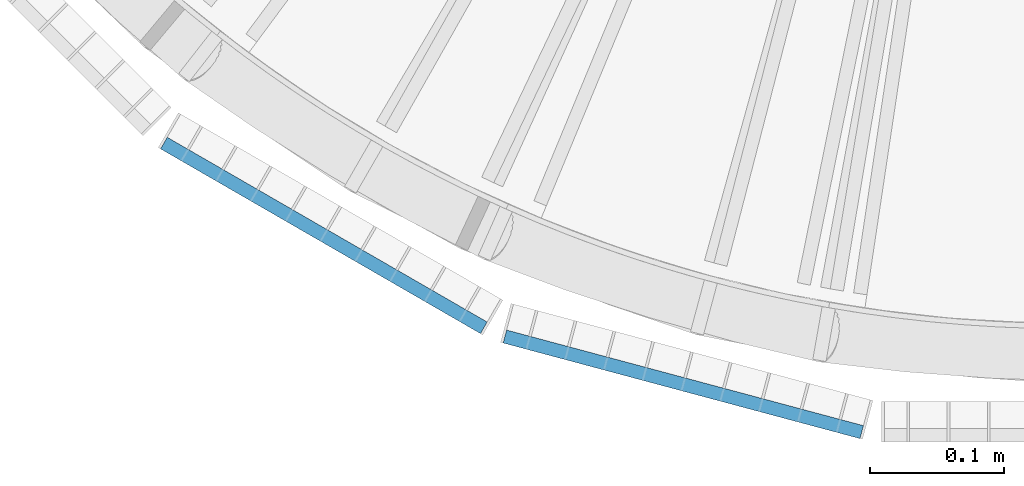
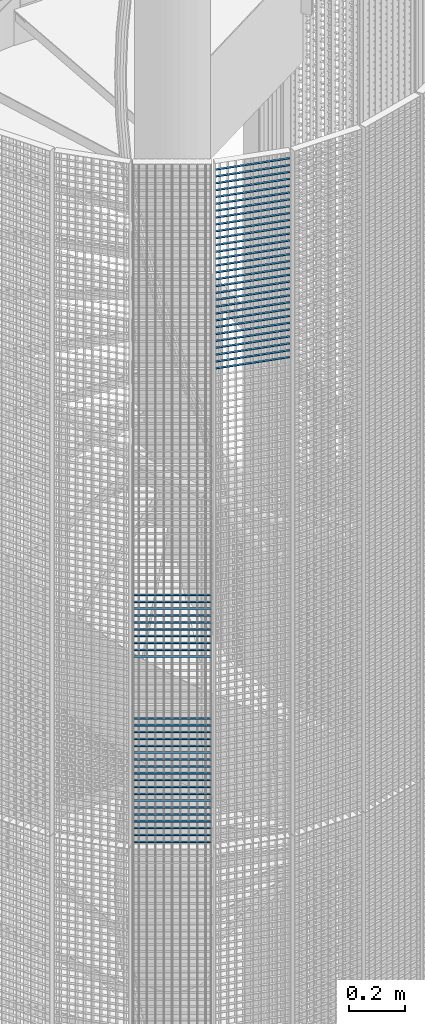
# One storey, part 343 of 1183: 59 beams, 2 elements without a shape of their own.
"""IFC2X3 building model written with IfcOpenShell, lengths in millimetres."""

from ifc_helpers import new_model, si_unit, frame, origin_with_axes, origin_2d_with_axis, place, context, subcontext, project, spatial, rectangle, extrude, material, type_object, element, aggregate, save


model = new_model("IFC2X3")

# Units and contexts
model_context = context("Model", 3, precision=1e-05, world=origin_with_axes())
body_context = subcontext(model_context, "Body", "Model", "MODEL_VIEW")
ifc_project = project(units=[si_unit("LENGTHUNIT", "METRE", prefix="MILLI"), si_unit("AREAUNIT", "SQUARE_METRE"), si_unit("VOLUMEUNIT", "CUBIC_METRE"), si_unit("MASSUNIT", "GRAM", prefix="KILO"), si_unit("TIMEUNIT", "SECOND"), si_unit("PLANEANGLEUNIT", "RADIAN"), si_unit("SOLIDANGLEUNIT", "STERADIAN"), si_unit("THERMODYNAMICTEMPERATUREUNIT", "DEGREE_CELSIUS"), si_unit("LUMINOUSINTENSITYUNIT", "LUMEN")], contexts=[model_context])

# Site, building, storey
site_placement = place(None, origin_with_axes())
site = spatial("IfcSite", under=ifc_project, at=site_placement, Name="Undefined", CompositionType="ELEMENT")
building_placement = place(site_placement, origin_with_axes())
building = spatial("IfcBuilding", under=site, at=building_placement, Name="Undefined", CompositionType="ELEMENT")
storey_placement = place(building_placement, origin_with_axes())
storey = spatial("IfcBuildingStorey", under=building, at=storey_placement, Name="Undefined", CompositionType="ELEMENT", Elevation=0.0)

# Assembly, beams
assembly_1_placement = place(storey_placement, origin_with_axes())
assembly_1 = element("IfcElementAssembly", 1, at=assembly_1_placement, inside=storey, Name="BORDURE", AssemblyPlace="NOTDEFINED", PredefinedType="NOTDEFINED")
ifc_material = material(Name="STEEL/S235JR")
beam_type = type_object("IfcBeamType", Name="PL2*10", PredefinedType="NOTDEFINED")
beam_1_placement = place(assembly_1_placement, frame((21162.7680445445, -1033.29996828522, 15570.0), z_axis=(-0.49999999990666, -0.866025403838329, 0.0), x_axis=(-0.866025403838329, 0.499999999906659, 0.0)))
beam_1 = element("IfcBeam", 2, at=beam_1_placement, type_object=beam_type, material=ifc_material, Name="ENTRETOISE", context=body_context, shape_type="SweptSolid", body=[
    extrude(rectangle(XDim=2.0, YDim=10.0, at=origin_2d_with_axis()), frame((275.999999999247, 9.09494701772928e-13, 1.53210777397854e-14), z_axis=(-1.0, 0.0, 0.0), x_axis=(0.0, -1.0, 0.0)), (0.0, 0.0, 1.0), 276.0),
])
beam_2_placement = place(assembly_1_placement, frame((21162.7680445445, -1033.29996828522, 15540.0), z_axis=(-0.49999999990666, -0.866025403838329, 0.0), x_axis=(-0.866025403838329, 0.499999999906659, 0.0)))
beam_2 = element("IfcBeam", 3, at=beam_2_placement, type_object=beam_type, material=ifc_material, Name="ENTRETOISE", context=body_context, shape_type="SweptSolid", body=[
    extrude(rectangle(XDim=2.0, YDim=10.0, at=origin_2d_with_axis()), frame((275.999999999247, 9.09494701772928e-13, 1.53210777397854e-14), z_axis=(-1.0, 0.0, 0.0), x_axis=(0.0, -1.0, 0.0)), (0.0, 0.0, 1.0), 276.0),
])
beam_3_placement = place(assembly_1_placement, frame((21162.7680445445, -1033.29996828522, 15840.0), z_axis=(-0.49999999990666, -0.866025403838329, 0.0), x_axis=(-0.866025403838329, 0.499999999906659, 0.0)))
beam_3 = element("IfcBeam", 4, at=beam_3_placement, type_object=beam_type, material=ifc_material, Name="ENTRETOISE", context=body_context, shape_type="SweptSolid", body=[
    extrude(rectangle(XDim=2.0, YDim=10.0, at=origin_2d_with_axis()), frame((275.999999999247, 9.09494701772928e-13, 1.53210777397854e-14), z_axis=(-1.0, 0.0, 0.0), x_axis=(0.0, -1.0, 0.0)), (0.0, 0.0, 1.0), 276.0),
])
beam_4_placement = place(assembly_1_placement, frame((21162.7680445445, -1033.29996828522, 15510.0), z_axis=(-0.49999999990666, -0.866025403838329, 0.0), x_axis=(-0.866025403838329, 0.499999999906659, 0.0)))
beam_4 = element("IfcBeam", 5, at=beam_4_placement, type_object=beam_type, material=ifc_material, Name="ENTRETOISE", context=body_context, shape_type="SweptSolid", body=[
    extrude(rectangle(XDim=2.0, YDim=10.0, at=origin_2d_with_axis()), frame((275.999999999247, 9.09494701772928e-13, 1.53210777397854e-14), z_axis=(-1.0, 0.0, 0.0), x_axis=(0.0, -1.0, 0.0)), (0.0, 0.0, 1.0), 276.0),
])
beam_5_placement = place(assembly_1_placement, frame((21162.7680445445, -1033.29996828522, 15480.0), z_axis=(-0.49999999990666, -0.866025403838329, 0.0), x_axis=(-0.866025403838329, 0.499999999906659, 0.0)))
beam_5 = element("IfcBeam", 6, at=beam_5_placement, type_object=beam_type, material=ifc_material, Name="ENTRETOISE", context=body_context, shape_type="SweptSolid", body=[
    extrude(rectangle(XDim=2.0, YDim=10.0, at=origin_2d_with_axis()), frame((275.999999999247, 9.09494701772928e-13, 1.53210777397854e-14), z_axis=(-1.0, 0.0, 0.0), x_axis=(0.0, -1.0, 0.0)), (0.0, 0.0, 1.0), 276.0),
])
beam_6_placement = place(assembly_1_placement, frame((21162.7680445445, -1033.29996828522, 15870.0), z_axis=(-0.49999999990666, -0.866025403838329, 0.0), x_axis=(-0.866025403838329, 0.499999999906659, 0.0)))
beam_6 = element("IfcBeam", 7, at=beam_6_placement, type_object=beam_type, material=ifc_material, Name="ENTRETOISE", context=body_context, shape_type="SweptSolid", body=[
    extrude(rectangle(XDim=2.0, YDim=10.0, at=origin_2d_with_axis()), frame((275.999999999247, 9.09494701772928e-13, 1.53210777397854e-14), z_axis=(-1.0, 0.0, 0.0), x_axis=(0.0, -1.0, 0.0)), (0.0, 0.0, 1.0), 276.0),
])
beam_7_placement = place(assembly_1_placement, frame((21162.7680445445, -1033.29996828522, 15450.0), z_axis=(-0.49999999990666, -0.866025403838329, 0.0), x_axis=(-0.866025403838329, 0.499999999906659, 0.0)))
beam_7 = element("IfcBeam", 8, at=beam_7_placement, type_object=beam_type, material=ifc_material, Name="ENTRETOISE", context=body_context, shape_type="SweptSolid", body=[
    extrude(rectangle(XDim=2.0, YDim=10.0, at=origin_2d_with_axis()), frame((275.999999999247, 9.09494701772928e-13, 1.53210777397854e-14), z_axis=(-1.0, 0.0, 0.0), x_axis=(0.0, -1.0, 0.0)), (0.0, 0.0, 1.0), 276.0),
])
beam_8_placement = place(assembly_1_placement, frame((21162.7680445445, -1033.29996828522, 15420.0), z_axis=(-0.49999999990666, -0.866025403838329, 0.0), x_axis=(-0.866025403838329, 0.499999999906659, 0.0)))
beam_8 = element("IfcBeam", 9, at=beam_8_placement, type_object=beam_type, material=ifc_material, Name="ENTRETOISE", context=body_context, shape_type="SweptSolid", body=[
    extrude(rectangle(XDim=2.0, YDim=10.0, at=origin_2d_with_axis()), frame((275.999999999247, 9.09494701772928e-13, 1.53210777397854e-14), z_axis=(-1.0, 0.0, 0.0), x_axis=(0.0, -1.0, 0.0)), (0.0, 0.0, 1.0), 276.0),
])
beam_9_placement = place(assembly_1_placement, frame((21162.7680445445, -1033.29996828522, 15900.0), z_axis=(-0.49999999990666, -0.866025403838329, 0.0), x_axis=(-0.866025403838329, 0.499999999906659, 0.0)))
beam_9 = element("IfcBeam", 10, at=beam_9_placement, type_object=beam_type, material=ifc_material, Name="ENTRETOISE", context=body_context, shape_type="SweptSolid", body=[
    extrude(rectangle(XDim=2.0, YDim=10.0, at=origin_2d_with_axis()), frame((275.999999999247, 9.09494701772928e-13, 1.53210777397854e-14), z_axis=(-1.0, 0.0, 0.0), x_axis=(0.0, -1.0, 0.0)), (0.0, 0.0, 1.0), 276.0),
])
beam_10_placement = place(assembly_1_placement, frame((21162.7680445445, -1033.29996828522, 15390.0), z_axis=(-0.49999999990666, -0.866025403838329, 0.0), x_axis=(-0.866025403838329, 0.499999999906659, 0.0)))
beam_10 = element("IfcBeam", 11, at=beam_10_placement, type_object=beam_type, material=ifc_material, Name="ENTRETOISE", context=body_context, shape_type="SweptSolid", body=[
    extrude(rectangle(XDim=2.0, YDim=10.0, at=origin_2d_with_axis()), frame((275.999999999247, 9.09494701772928e-13, 1.53210777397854e-14), z_axis=(-1.0, 0.0, 0.0), x_axis=(0.0, -1.0, 0.0)), (0.0, 0.0, 1.0), 276.0),
])
beam_11_placement = place(assembly_1_placement, frame((21162.7680445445, -1033.29996828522, 15930.0), z_axis=(-0.49999999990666, -0.866025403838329, 0.0), x_axis=(-0.866025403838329, 0.499999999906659, 0.0)))
beam_11 = element("IfcBeam", 12, at=beam_11_placement, type_object=beam_type, material=ifc_material, Name="ENTRETOISE", context=body_context, shape_type="SweptSolid", body=[
    extrude(rectangle(XDim=2.0, YDim=10.0, at=origin_2d_with_axis()), frame((275.999999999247, 9.09494701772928e-13, 1.53210777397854e-14), z_axis=(-1.0, 0.0, 0.0), x_axis=(0.0, -1.0, 0.0)), (0.0, 0.0, 1.0), 276.0),
])
beam_12_placement = place(assembly_1_placement, frame((21162.7680445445, -1033.29996828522, 15360.0), z_axis=(-0.49999999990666, -0.866025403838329, 0.0), x_axis=(-0.866025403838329, 0.499999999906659, 0.0)))
beam_12 = element("IfcBeam", 13, at=beam_12_placement, type_object=beam_type, material=ifc_material, Name="ENTRETOISE", context=body_context, shape_type="SweptSolid", body=[
    extrude(rectangle(XDim=2.0, YDim=10.0, at=origin_2d_with_axis()), frame((275.999999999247, 9.09494701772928e-13, 1.53210777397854e-14), z_axis=(-1.0, 0.0, 0.0), x_axis=(0.0, -1.0, 0.0)), (0.0, 0.0, 1.0), 276.0),
])
beam_13_placement = place(assembly_1_placement, frame((21162.7680445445, -1033.29996828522, 15330.0), z_axis=(-0.49999999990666, -0.866025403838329, 0.0), x_axis=(-0.866025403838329, 0.499999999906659, 0.0)))
beam_13 = element("IfcBeam", 14, at=beam_13_placement, type_object=beam_type, material=ifc_material, Name="ENTRETOISE", context=body_context, shape_type="SweptSolid", body=[
    extrude(rectangle(XDim=2.0, YDim=10.0, at=origin_2d_with_axis()), frame((275.999999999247, 9.09494701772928e-13, 1.53210777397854e-14), z_axis=(-1.0, 0.0, 0.0), x_axis=(0.0, -1.0, 0.0)), (0.0, 0.0, 1.0), 276.0),
])
beam_14_placement = place(assembly_1_placement, frame((21162.7680445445, -1033.29996828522, 15960.0), z_axis=(-0.49999999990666, -0.866025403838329, 0.0), x_axis=(-0.866025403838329, 0.499999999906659, 0.0)))
beam_14 = element("IfcBeam", 15, at=beam_14_placement, type_object=beam_type, material=ifc_material, Name="ENTRETOISE", context=body_context, shape_type="SweptSolid", body=[
    extrude(rectangle(XDim=2.0, YDim=10.0, at=origin_2d_with_axis()), frame((275.999999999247, 9.09494701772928e-13, 1.53210777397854e-14), z_axis=(-1.0, 0.0, 0.0), x_axis=(0.0, -1.0, 0.0)), (0.0, 0.0, 1.0), 276.0),
])
beam_15_placement = place(assembly_1_placement, frame((21162.7680445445, -1033.29996828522, 15300.0), z_axis=(-0.49999999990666, -0.866025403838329, 0.0), x_axis=(-0.866025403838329, 0.499999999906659, 0.0)))
beam_15 = element("IfcBeam", 16, at=beam_15_placement, type_object=beam_type, material=ifc_material, Name="ENTRETOISE", context=body_context, shape_type="SweptSolid", body=[
    extrude(rectangle(XDim=2.0, YDim=10.0, at=origin_2d_with_axis()), frame((275.999999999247, 9.09494701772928e-13, 1.53210777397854e-14), z_axis=(-1.0, 0.0, 0.0), x_axis=(0.0, -1.0, 0.0)), (0.0, 0.0, 1.0), 276.0),
])
beam_16_placement = place(assembly_1_placement, frame((21162.7680445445, -1033.29996828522, 15270.0), z_axis=(-0.49999999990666, -0.866025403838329, 0.0), x_axis=(-0.866025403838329, 0.499999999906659, 0.0)))
beam_16 = element("IfcBeam", 17, at=beam_16_placement, type_object=beam_type, material=ifc_material, Name="ENTRETOISE", context=body_context, shape_type="SweptSolid", body=[
    extrude(rectangle(XDim=2.0, YDim=10.0, at=origin_2d_with_axis()), frame((275.999999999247, 9.09494701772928e-13, 1.53210777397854e-14), z_axis=(-1.0, 0.0, 0.0), x_axis=(0.0, -1.0, 0.0)), (0.0, 0.0, 1.0), 276.0),
])
beam_17_placement = place(assembly_1_placement, frame((21162.7680445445, -1033.29996828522, 15990.0), z_axis=(-0.49999999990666, -0.866025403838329, 0.0), x_axis=(-0.866025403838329, 0.499999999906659, 0.0)))
beam_17 = element("IfcBeam", 18, at=beam_17_placement, type_object=beam_type, material=ifc_material, Name="ENTRETOISE", context=body_context, shape_type="SweptSolid", body=[
    extrude(rectangle(XDim=2.0, YDim=10.0, at=origin_2d_with_axis()), frame((275.999999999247, 9.09494701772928e-13, 1.53210777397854e-14), z_axis=(-1.0, 0.0, 0.0), x_axis=(0.0, -1.0, 0.0)), (0.0, 0.0, 1.0), 276.0),
])
beam_18_placement = place(assembly_1_placement, frame((21162.7680445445, -1033.29996828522, 15240.0), z_axis=(-0.49999999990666, -0.866025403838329, 0.0), x_axis=(-0.866025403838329, 0.499999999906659, 0.0)))
beam_18 = element("IfcBeam", 19, at=beam_18_placement, type_object=beam_type, material=ifc_material, Name="ENTRETOISE", context=body_context, shape_type="SweptSolid", body=[
    extrude(rectangle(XDim=2.0, YDim=10.0, at=origin_2d_with_axis()), frame((275.999999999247, 9.09494701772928e-13, 1.53210777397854e-14), z_axis=(-1.0, 0.0, 0.0), x_axis=(0.0, -1.0, 0.0)), (0.0, 0.0, 1.0), 276.0),
])
beam_19_placement = place(assembly_1_placement, frame((21162.7680445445, -1033.29996828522, 16020.0), z_axis=(-0.49999999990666, -0.866025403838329, 0.0), x_axis=(-0.866025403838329, 0.499999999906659, 0.0)))
beam_19 = element("IfcBeam", 20, at=beam_19_placement, type_object=beam_type, material=ifc_material, Name="ENTRETOISE", context=body_context, shape_type="SweptSolid", body=[
    extrude(rectangle(XDim=2.0, YDim=10.0, at=origin_2d_with_axis()), frame((275.999999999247, 9.09494701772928e-13, 1.53210777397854e-14), z_axis=(-1.0, 0.0, 0.0), x_axis=(0.0, -1.0, 0.0)), (0.0, 0.0, 1.0), 276.0),
])
beam_20_placement = place(assembly_1_placement, frame((21162.7680445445, -1033.29996828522, 15210.0), z_axis=(-0.49999999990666, -0.866025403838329, 0.0), x_axis=(-0.866025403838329, 0.499999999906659, 0.0)))
beam_20 = element("IfcBeam", 21, at=beam_20_placement, type_object=beam_type, material=ifc_material, Name="ENTRETOISE", context=body_context, shape_type="SweptSolid", body=[
    extrude(rectangle(XDim=2.0, YDim=10.0, at=origin_2d_with_axis()), frame((275.999999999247, 9.09494701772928e-13, 1.53210777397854e-14), z_axis=(-1.0, 0.0, 0.0), x_axis=(0.0, -1.0, 0.0)), (0.0, 0.0, 1.0), 276.0),
])
beam_21_placement = place(assembly_1_placement, frame((21162.7680445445, -1033.29996828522, 15180.0), z_axis=(-0.49999999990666, -0.866025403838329, 0.0), x_axis=(-0.866025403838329, 0.499999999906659, 0.0)))
beam_21 = element("IfcBeam", 22, at=beam_21_placement, type_object=beam_type, material=ifc_material, Name="ENTRETOISE", context=body_context, shape_type="SweptSolid", body=[
    extrude(rectangle(XDim=2.0, YDim=10.0, at=origin_2d_with_axis()), frame((275.999999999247, 9.09494701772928e-13, 1.53210777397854e-14), z_axis=(-1.0, 0.0, 0.0), x_axis=(0.0, -1.0, 0.0)), (0.0, 0.0, 1.0), 276.0),
])
beam_22_placement = place(assembly_1_placement, frame((21162.7680445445, -1033.29996828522, 16050.0), z_axis=(-0.49999999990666, -0.866025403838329, 0.0), x_axis=(-0.866025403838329, 0.499999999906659, 0.0)))
beam_22 = element("IfcBeam", 23, at=beam_22_placement, type_object=beam_type, material=ifc_material, Name="ENTRETOISE", context=body_context, shape_type="SweptSolid", body=[
    extrude(rectangle(XDim=2.0, YDim=10.0, at=origin_2d_with_axis()), frame((275.999999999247, 9.09494701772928e-13, 1.53210777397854e-14), z_axis=(-1.0, 0.0, 0.0), x_axis=(0.0, -1.0, 0.0)), (0.0, 0.0, 1.0), 276.0),
])
beam_23_placement = place(assembly_1_placement, frame((21162.7680445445, -1033.29996828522, 15150.0), z_axis=(-0.49999999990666, -0.866025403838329, 0.0), x_axis=(-0.866025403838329, 0.499999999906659, 0.0)))
beam_23 = element("IfcBeam", 24, at=beam_23_placement, type_object=beam_type, material=ifc_material, Name="ENTRETOISE", context=body_context, shape_type="SweptSolid", body=[
    extrude(rectangle(XDim=2.0, YDim=10.0, at=origin_2d_with_axis()), frame((275.999999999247, 9.09494701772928e-13, 1.53210777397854e-14), z_axis=(-1.0, 0.0, 0.0), x_axis=(0.0, -1.0, 0.0)), (0.0, 0.0, 1.0), 276.0),
])
beam_24_placement = place(assembly_1_placement, frame((21162.7680445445, -1033.29996828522, 15120.0), z_axis=(-0.49999999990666, -0.866025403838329, 0.0), x_axis=(-0.866025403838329, 0.499999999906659, 0.0)))
beam_24 = element("IfcBeam", 25, at=beam_24_placement, type_object=beam_type, material=ifc_material, Name="ENTRETOISE", context=body_context, shape_type="SweptSolid", body=[
    extrude(rectangle(XDim=2.0, YDim=10.0, at=origin_2d_with_axis()), frame((275.999999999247, 9.09494701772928e-13, 1.53210777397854e-14), z_axis=(-1.0, 0.0, 0.0), x_axis=(0.0, -1.0, 0.0)), (0.0, 0.0, 1.0), 276.0),
])
beam_25_placement = place(assembly_1_placement, frame((21162.7680445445, -1033.29996828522, 16080.0), z_axis=(-0.49999999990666, -0.866025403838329, 0.0), x_axis=(-0.866025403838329, 0.499999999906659, 0.0)))
beam_25 = element("IfcBeam", 26, at=beam_25_placement, type_object=beam_type, material=ifc_material, Name="ENTRETOISE", context=body_context, shape_type="SweptSolid", body=[
    extrude(rectangle(XDim=2.0, YDim=10.0, at=origin_2d_with_axis()), frame((275.999999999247, 9.09494701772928e-13, 1.53210777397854e-14), z_axis=(-1.0, 0.0, 0.0), x_axis=(0.0, -1.0, 0.0)), (0.0, 0.0, 1.0), 276.0),
])
beam_26_placement = place(assembly_1_placement, frame((21162.7680445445, -1033.29996828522, 15090.0), z_axis=(-0.49999999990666, -0.866025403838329, 0.0), x_axis=(-0.866025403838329, 0.499999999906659, 0.0)))
beam_26 = element("IfcBeam", 27, at=beam_26_placement, type_object=beam_type, material=ifc_material, Name="ENTRETOISE", context=body_context, shape_type="SweptSolid", body=[
    extrude(rectangle(XDim=2.0, YDim=10.0, at=origin_2d_with_axis()), frame((275.999999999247, 9.09494701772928e-13, 1.53210777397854e-14), z_axis=(-1.0, 0.0, 0.0), x_axis=(0.0, -1.0, 0.0)), (0.0, 0.0, 1.0), 276.0),
])
beam_27_placement = place(assembly_1_placement, frame((21162.7680445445, -1033.29996828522, 15060.0), z_axis=(-0.49999999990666, -0.866025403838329, 0.0), x_axis=(-0.866025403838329, 0.499999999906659, 0.0)))
beam_27 = element("IfcBeam", 28, at=beam_27_placement, type_object=beam_type, material=ifc_material, Name="ENTRETOISE", context=body_context, shape_type="SweptSolid", body=[
    extrude(rectangle(XDim=2.0, YDim=10.0, at=origin_2d_with_axis()), frame((275.999999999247, 9.09494701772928e-13, 1.53210777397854e-14), z_axis=(-1.0, 0.0, 0.0), x_axis=(0.0, -1.0, 0.0)), (0.0, 0.0, 1.0), 276.0),
])
beam_28_placement = place(assembly_1_placement, frame((21162.7680445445, -1033.29996828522, 16110.0), z_axis=(-0.49999999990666, -0.866025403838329, 0.0), x_axis=(-0.866025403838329, 0.499999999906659, 0.0)))
beam_28 = element("IfcBeam", 29, at=beam_28_placement, type_object=beam_type, material=ifc_material, Name="ENTRETOISE", context=body_context, shape_type="SweptSolid", body=[
    extrude(rectangle(XDim=2.0, YDim=10.0, at=origin_2d_with_axis()), frame((275.999999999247, 9.09494701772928e-13, 1.53210777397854e-14), z_axis=(-1.0, 0.0, 0.0), x_axis=(0.0, -1.0, 0.0)), (0.0, 0.0, 1.0), 276.0),
])
beam_29_placement = place(assembly_1_placement, frame((21162.7680445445, -1033.29996828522, 15030.0), z_axis=(-0.49999999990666, -0.866025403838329, 0.0), x_axis=(-0.866025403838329, 0.499999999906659, 0.0)))
beam_29 = element("IfcBeam", 30, at=beam_29_placement, type_object=beam_type, material=ifc_material, Name="ENTRETOISE", context=body_context, shape_type="SweptSolid", body=[
    extrude(rectangle(XDim=2.0, YDim=10.0, at=origin_2d_with_axis()), frame((275.999999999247, 9.09494701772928e-13, 1.53210777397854e-14), z_axis=(-1.0, 0.0, 0.0), x_axis=(0.0, -1.0, 0.0)), (0.0, 0.0, 1.0), 276.0),
])
aggregate(assembly_1, [beam_1, beam_2, beam_3, beam_4, beam_5, beam_6, beam_7, beam_8, beam_9, beam_10, beam_11, beam_12, beam_13, beam_14, beam_15, beam_16, beam_17, beam_18, beam_19, beam_20, beam_21, beam_22, beam_23, beam_24, beam_25, beam_26, beam_27, beam_28, beam_29])

assembly_2_placement = place(storey_placement, origin_with_axes())
assembly_2 = element("IfcElementAssembly", 31, at=assembly_2_placement, inside=storey, Name="BORDURE", AssemblyPlace="NOTDEFINED", PredefinedType="NOTDEFINED")
beam_30_placement = place(assembly_2_placement, frame((21445.1040732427, -1111.25508286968, 17970.0), z_axis=(-0.258819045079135, -0.965925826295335, 0.0), x_axis=(-0.965925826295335, 0.258819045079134, 0.0)))
beam_30 = element("IfcBeam", 32, at=beam_30_placement, type_object=beam_type, material=ifc_material, Name="ENTRETOISE", context=body_context, shape_type="SweptSolid", body=[
    extrude(rectangle(XDim=2.0, YDim=10.0, at=origin_2d_with_axis()), frame((275.999999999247, 9.09494701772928e-13, 1.53210777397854e-14), z_axis=(-1.0, 0.0, 0.0), x_axis=(0.0, -1.0, 0.0)), (0.0, 0.0, 1.0), 276.0),
])
beam_31_placement = place(assembly_2_placement, frame((21445.1040732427, -1111.25508286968, 17940.0), z_axis=(-0.258819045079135, -0.965925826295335, 0.0), x_axis=(-0.965925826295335, 0.258819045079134, 0.0)))
beam_31 = element("IfcBeam", 33, at=beam_31_placement, type_object=beam_type, material=ifc_material, Name="ENTRETOISE", context=body_context, shape_type="SweptSolid", body=[
    extrude(rectangle(XDim=2.0, YDim=10.0, at=origin_2d_with_axis()), frame((275.999999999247, 9.09494701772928e-13, 1.53210777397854e-14), z_axis=(-1.0, 0.0, 0.0), x_axis=(0.0, -1.0, 0.0)), (0.0, 0.0, 1.0), 276.0),
])
beam_32_placement = place(assembly_2_placement, frame((21445.1040732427, -1111.25508286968, 17910.0), z_axis=(-0.258819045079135, -0.965925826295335, 0.0), x_axis=(-0.965925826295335, 0.258819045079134, 0.0)))
beam_32 = element("IfcBeam", 34, at=beam_32_placement, type_object=beam_type, material=ifc_material, Name="ENTRETOISE", context=body_context, shape_type="SweptSolid", body=[
    extrude(rectangle(XDim=2.0, YDim=10.0, at=origin_2d_with_axis()), frame((275.999999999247, 9.09494701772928e-13, 1.53210777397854e-14), z_axis=(-1.0, 0.0, 0.0), x_axis=(0.0, -1.0, 0.0)), (0.0, 0.0, 1.0), 276.0),
])
beam_33_placement = place(assembly_2_placement, frame((21445.1040732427, -1111.25508286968, 17880.0), z_axis=(-0.258819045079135, -0.965925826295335, 0.0), x_axis=(-0.965925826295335, 0.258819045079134, 0.0)))
beam_33 = element("IfcBeam", 35, at=beam_33_placement, type_object=beam_type, material=ifc_material, Name="ENTRETOISE", context=body_context, shape_type="SweptSolid", body=[
    extrude(rectangle(XDim=2.0, YDim=10.0, at=origin_2d_with_axis()), frame((275.999999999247, 9.09494701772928e-13, 1.53210777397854e-14), z_axis=(-1.0, 0.0, 0.0), x_axis=(0.0, -1.0, 0.0)), (0.0, 0.0, 1.0), 276.0),
])
beam_34_placement = place(assembly_2_placement, frame((21445.1040732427, -1111.25508286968, 17850.0), z_axis=(-0.258819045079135, -0.965925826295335, 0.0), x_axis=(-0.965925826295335, 0.258819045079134, 0.0)))
beam_34 = element("IfcBeam", 36, at=beam_34_placement, type_object=beam_type, material=ifc_material, Name="ENTRETOISE", context=body_context, shape_type="SweptSolid", body=[
    extrude(rectangle(XDim=2.0, YDim=10.0, at=origin_2d_with_axis()), frame((275.999999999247, 9.09494701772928e-13, 1.53210777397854e-14), z_axis=(-1.0, 0.0, 0.0), x_axis=(0.0, -1.0, 0.0)), (0.0, 0.0, 1.0), 276.0),
])
beam_35_placement = place(assembly_2_placement, frame((21445.1040732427, -1111.25508286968, 17820.0), z_axis=(-0.258819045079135, -0.965925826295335, 0.0), x_axis=(-0.965925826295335, 0.258819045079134, 0.0)))
beam_35 = element("IfcBeam", 37, at=beam_35_placement, type_object=beam_type, material=ifc_material, Name="ENTRETOISE", context=body_context, shape_type="SweptSolid", body=[
    extrude(rectangle(XDim=2.0, YDim=10.0, at=origin_2d_with_axis()), frame((275.999999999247, 9.09494701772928e-13, 1.53210777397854e-14), z_axis=(-1.0, 0.0, 0.0), x_axis=(0.0, -1.0, 0.0)), (0.0, 0.0, 1.0), 276.0),
])
beam_36_placement = place(assembly_2_placement, frame((21445.1040732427, -1111.25508286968, 17790.0), z_axis=(-0.258819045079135, -0.965925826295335, 0.0), x_axis=(-0.965925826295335, 0.258819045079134, 0.0)))
beam_36 = element("IfcBeam", 38, at=beam_36_placement, type_object=beam_type, material=ifc_material, Name="ENTRETOISE", context=body_context, shape_type="SweptSolid", body=[
    extrude(rectangle(XDim=2.0, YDim=10.0, at=origin_2d_with_axis()), frame((275.999999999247, 9.09494701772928e-13, 1.53210777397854e-14), z_axis=(-1.0, 0.0, 0.0), x_axis=(0.0, -1.0, 0.0)), (0.0, 0.0, 1.0), 276.0),
])
beam_37_placement = place(assembly_2_placement, frame((21445.1040732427, -1111.25508286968, 17760.0), z_axis=(-0.258819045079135, -0.965925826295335, 0.0), x_axis=(-0.965925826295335, 0.258819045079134, 0.0)))
beam_37 = element("IfcBeam", 39, at=beam_37_placement, type_object=beam_type, material=ifc_material, Name="ENTRETOISE", context=body_context, shape_type="SweptSolid", body=[
    extrude(rectangle(XDim=2.0, YDim=10.0, at=origin_2d_with_axis()), frame((275.999999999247, 9.09494701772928e-13, 1.53210777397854e-14), z_axis=(-1.0, 0.0, 0.0), x_axis=(0.0, -1.0, 0.0)), (0.0, 0.0, 1.0), 276.0),
])
beam_38_placement = place(assembly_2_placement, frame((21445.1040732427, -1111.25508286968, 17730.0), z_axis=(-0.258819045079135, -0.965925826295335, 0.0), x_axis=(-0.965925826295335, 0.258819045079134, 0.0)))
beam_38 = element("IfcBeam", 40, at=beam_38_placement, type_object=beam_type, material=ifc_material, Name="ENTRETOISE", context=body_context, shape_type="SweptSolid", body=[
    extrude(rectangle(XDim=2.0, YDim=10.0, at=origin_2d_with_axis()), frame((275.999999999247, 9.09494701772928e-13, 1.53210777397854e-14), z_axis=(-1.0, 0.0, 0.0), x_axis=(0.0, -1.0, 0.0)), (0.0, 0.0, 1.0), 276.0),
])
beam_39_placement = place(assembly_2_placement, frame((21445.1040732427, -1111.25508286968, 17700.0), z_axis=(-0.258819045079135, -0.965925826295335, 0.0), x_axis=(-0.965925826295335, 0.258819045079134, 0.0)))
beam_39 = element("IfcBeam", 41, at=beam_39_placement, type_object=beam_type, material=ifc_material, Name="ENTRETOISE", context=body_context, shape_type="SweptSolid", body=[
    extrude(rectangle(XDim=2.0, YDim=10.0, at=origin_2d_with_axis()), frame((275.999999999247, 9.09494701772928e-13, 1.53210777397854e-14), z_axis=(-1.0, 0.0, 0.0), x_axis=(0.0, -1.0, 0.0)), (0.0, 0.0, 1.0), 276.0),
])
beam_40_placement = place(assembly_2_placement, frame((21445.1040732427, -1111.25508286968, 17670.0), z_axis=(-0.258819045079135, -0.965925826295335, 0.0), x_axis=(-0.965925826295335, 0.258819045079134, 0.0)))
beam_40 = element("IfcBeam", 42, at=beam_40_placement, type_object=beam_type, material=ifc_material, Name="ENTRETOISE", context=body_context, shape_type="SweptSolid", body=[
    extrude(rectangle(XDim=2.0, YDim=10.0, at=origin_2d_with_axis()), frame((275.999999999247, 9.09494701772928e-13, 1.53210777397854e-14), z_axis=(-1.0, 0.0, 0.0), x_axis=(0.0, -1.0, 0.0)), (0.0, 0.0, 1.0), 276.0),
])
beam_41_placement = place(assembly_2_placement, frame((21445.1040732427, -1111.25508286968, 17640.0), z_axis=(-0.258819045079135, -0.965925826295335, 0.0), x_axis=(-0.965925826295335, 0.258819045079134, 0.0)))
beam_41 = element("IfcBeam", 43, at=beam_41_placement, type_object=beam_type, material=ifc_material, Name="ENTRETOISE", context=body_context, shape_type="SweptSolid", body=[
    extrude(rectangle(XDim=2.0, YDim=10.0, at=origin_2d_with_axis()), frame((275.999999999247, 9.09494701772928e-13, 1.53210777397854e-14), z_axis=(-1.0, 0.0, 0.0), x_axis=(0.0, -1.0, 0.0)), (0.0, 0.0, 1.0), 276.0),
])
beam_42_placement = place(assembly_2_placement, frame((21445.1040732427, -1111.25508286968, 17610.0), z_axis=(-0.258819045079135, -0.965925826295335, 0.0), x_axis=(-0.965925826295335, 0.258819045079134, 0.0)))
beam_42 = element("IfcBeam", 44, at=beam_42_placement, type_object=beam_type, material=ifc_material, Name="ENTRETOISE", context=body_context, shape_type="SweptSolid", body=[
    extrude(rectangle(XDim=2.0, YDim=10.0, at=origin_2d_with_axis()), frame((275.999999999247, 9.09494701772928e-13, 1.53210777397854e-14), z_axis=(-1.0, 0.0, 0.0), x_axis=(0.0, -1.0, 0.0)), (0.0, 0.0, 1.0), 276.0),
])
beam_43_placement = place(assembly_2_placement, frame((21445.1040732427, -1111.25508286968, 17580.0), z_axis=(-0.258819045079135, -0.965925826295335, 0.0), x_axis=(-0.965925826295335, 0.258819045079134, 0.0)))
beam_43 = element("IfcBeam", 45, at=beam_43_placement, type_object=beam_type, material=ifc_material, Name="ENTRETOISE", context=body_context, shape_type="SweptSolid", body=[
    extrude(rectangle(XDim=2.0, YDim=10.0, at=origin_2d_with_axis()), frame((275.999999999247, 9.09494701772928e-13, 1.53210777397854e-14), z_axis=(-1.0, 0.0, 0.0), x_axis=(0.0, -1.0, 0.0)), (0.0, 0.0, 1.0), 276.0),
])
beam_44_placement = place(assembly_2_placement, frame((21445.1040732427, -1111.25508286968, 17550.0), z_axis=(-0.258819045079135, -0.965925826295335, 0.0), x_axis=(-0.965925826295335, 0.258819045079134, 0.0)))
beam_44 = element("IfcBeam", 46, at=beam_44_placement, type_object=beam_type, material=ifc_material, Name="ENTRETOISE", context=body_context, shape_type="SweptSolid", body=[
    extrude(rectangle(XDim=2.0, YDim=10.0, at=origin_2d_with_axis()), frame((275.999999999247, 9.09494701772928e-13, 1.53210777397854e-14), z_axis=(-1.0, 0.0, 0.0), x_axis=(0.0, -1.0, 0.0)), (0.0, 0.0, 1.0), 276.0),
])
beam_45_placement = place(assembly_2_placement, frame((21445.1040732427, -1111.25508286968, 17520.0), z_axis=(-0.258819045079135, -0.965925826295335, 0.0), x_axis=(-0.965925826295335, 0.258819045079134, 0.0)))
beam_45 = element("IfcBeam", 47, at=beam_45_placement, type_object=beam_type, material=ifc_material, Name="ENTRETOISE", context=body_context, shape_type="SweptSolid", body=[
    extrude(rectangle(XDim=2.0, YDim=10.0, at=origin_2d_with_axis()), frame((275.999999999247, 9.09494701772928e-13, 1.53210777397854e-14), z_axis=(-1.0, 0.0, 0.0), x_axis=(0.0, -1.0, 0.0)), (0.0, 0.0, 1.0), 276.0),
])
beam_46_placement = place(assembly_2_placement, frame((21445.1040732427, -1111.25508286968, 17490.0), z_axis=(-0.258819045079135, -0.965925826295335, 0.0), x_axis=(-0.965925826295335, 0.258819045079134, 0.0)))
beam_46 = element("IfcBeam", 48, at=beam_46_placement, type_object=beam_type, material=ifc_material, Name="ENTRETOISE", context=body_context, shape_type="SweptSolid", body=[
    extrude(rectangle(XDim=2.0, YDim=10.0, at=origin_2d_with_axis()), frame((275.999999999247, 9.09494701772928e-13, 1.53210777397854e-14), z_axis=(-1.0, 0.0, 0.0), x_axis=(0.0, -1.0, 0.0)), (0.0, 0.0, 1.0), 276.0),
])
beam_47_placement = place(assembly_2_placement, frame((21445.1040732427, -1111.25508286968, 17460.0), z_axis=(-0.258819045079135, -0.965925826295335, 0.0), x_axis=(-0.965925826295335, 0.258819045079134, 0.0)))
beam_47 = element("IfcBeam", 49, at=beam_47_placement, type_object=beam_type, material=ifc_material, Name="ENTRETOISE", context=body_context, shape_type="SweptSolid", body=[
    extrude(rectangle(XDim=2.0, YDim=10.0, at=origin_2d_with_axis()), frame((275.999999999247, 9.09494701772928e-13, 1.53210777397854e-14), z_axis=(-1.0, 0.0, 0.0), x_axis=(0.0, -1.0, 0.0)), (0.0, 0.0, 1.0), 276.0),
])
beam_48_placement = place(assembly_2_placement, frame((21445.1040732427, -1111.25508286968, 17430.0), z_axis=(-0.258819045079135, -0.965925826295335, 0.0), x_axis=(-0.965925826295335, 0.258819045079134, 0.0)))
beam_48 = element("IfcBeam", 50, at=beam_48_placement, type_object=beam_type, material=ifc_material, Name="ENTRETOISE", context=body_context, shape_type="SweptSolid", body=[
    extrude(rectangle(XDim=2.0, YDim=10.0, at=origin_2d_with_axis()), frame((275.999999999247, 9.09494701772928e-13, 1.53210777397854e-14), z_axis=(-1.0, 0.0, 0.0), x_axis=(0.0, -1.0, 0.0)), (0.0, 0.0, 1.0), 276.0),
])
beam_49_placement = place(assembly_2_placement, frame((21445.1040732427, -1111.25508286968, 17400.0), z_axis=(-0.258819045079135, -0.965925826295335, 0.0), x_axis=(-0.965925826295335, 0.258819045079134, 0.0)))
beam_49 = element("IfcBeam", 51, at=beam_49_placement, type_object=beam_type, material=ifc_material, Name="ENTRETOISE", context=body_context, shape_type="SweptSolid", body=[
    extrude(rectangle(XDim=2.0, YDim=10.0, at=origin_2d_with_axis()), frame((275.999999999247, 9.09494701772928e-13, 1.53210777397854e-14), z_axis=(-1.0, 0.0, 0.0), x_axis=(0.0, -1.0, 0.0)), (0.0, 0.0, 1.0), 276.0),
])
beam_50_placement = place(assembly_2_placement, frame((21445.1040732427, -1111.25508286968, 17370.0), z_axis=(-0.258819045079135, -0.965925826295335, 0.0), x_axis=(-0.965925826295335, 0.258819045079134, 0.0)))
beam_50 = element("IfcBeam", 52, at=beam_50_placement, type_object=beam_type, material=ifc_material, Name="ENTRETOISE", context=body_context, shape_type="SweptSolid", body=[
    extrude(rectangle(XDim=2.0, YDim=10.0, at=origin_2d_with_axis()), frame((275.999999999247, 9.09494701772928e-13, 1.53210777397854e-14), z_axis=(-1.0, 0.0, 0.0), x_axis=(0.0, -1.0, 0.0)), (0.0, 0.0, 1.0), 276.0),
])
beam_51_placement = place(assembly_2_placement, frame((21445.1040732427, -1111.25508286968, 17340.0), z_axis=(-0.258819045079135, -0.965925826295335, 0.0), x_axis=(-0.965925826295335, 0.258819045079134, 0.0)))
beam_51 = element("IfcBeam", 53, at=beam_51_placement, type_object=beam_type, material=ifc_material, Name="ENTRETOISE", context=body_context, shape_type="SweptSolid", body=[
    extrude(rectangle(XDim=2.0, YDim=10.0, at=origin_2d_with_axis()), frame((275.999999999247, 9.09494701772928e-13, 1.53210777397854e-14), z_axis=(-1.0, 0.0, 0.0), x_axis=(0.0, -1.0, 0.0)), (0.0, 0.0, 1.0), 276.0),
])
beam_52_placement = place(assembly_2_placement, frame((21445.1040732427, -1111.25508286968, 17310.0), z_axis=(-0.258819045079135, -0.965925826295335, 0.0), x_axis=(-0.965925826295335, 0.258819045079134, 0.0)))
beam_52 = element("IfcBeam", 54, at=beam_52_placement, type_object=beam_type, material=ifc_material, Name="ENTRETOISE", context=body_context, shape_type="SweptSolid", body=[
    extrude(rectangle(XDim=2.0, YDim=10.0, at=origin_2d_with_axis()), frame((275.999999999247, 9.09494701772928e-13, 1.53210777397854e-14), z_axis=(-1.0, 0.0, 0.0), x_axis=(0.0, -1.0, 0.0)), (0.0, 0.0, 1.0), 276.0),
])
beam_53_placement = place(assembly_2_placement, frame((21445.1040732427, -1111.25508286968, 17280.0), z_axis=(-0.258819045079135, -0.965925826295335, 0.0), x_axis=(-0.965925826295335, 0.258819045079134, 0.0)))
beam_53 = element("IfcBeam", 55, at=beam_53_placement, type_object=beam_type, material=ifc_material, Name="ENTRETOISE", context=body_context, shape_type="SweptSolid", body=[
    extrude(rectangle(XDim=2.0, YDim=10.0, at=origin_2d_with_axis()), frame((275.999999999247, 9.09494701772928e-13, 1.53210777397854e-14), z_axis=(-1.0, 0.0, 0.0), x_axis=(0.0, -1.0, 0.0)), (0.0, 0.0, 1.0), 276.0),
])
beam_54_placement = place(assembly_2_placement, frame((21445.1040732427, -1111.25508286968, 17250.0), z_axis=(-0.258819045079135, -0.965925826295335, 0.0), x_axis=(-0.965925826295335, 0.258819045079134, 0.0)))
beam_54 = element("IfcBeam", 56, at=beam_54_placement, type_object=beam_type, material=ifc_material, Name="ENTRETOISE", context=body_context, shape_type="SweptSolid", body=[
    extrude(rectangle(XDim=2.0, YDim=10.0, at=origin_2d_with_axis()), frame((275.999999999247, 9.09494701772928e-13, 1.53210777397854e-14), z_axis=(-1.0, 0.0, 0.0), x_axis=(0.0, -1.0, 0.0)), (0.0, 0.0, 1.0), 276.0),
])
beam_55_placement = place(assembly_2_placement, frame((21445.1040732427, -1111.25508286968, 17220.0), z_axis=(-0.258819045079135, -0.965925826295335, 0.0), x_axis=(-0.965925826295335, 0.258819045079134, 0.0)))
beam_55 = element("IfcBeam", 57, at=beam_55_placement, type_object=beam_type, material=ifc_material, Name="ENTRETOISE", context=body_context, shape_type="SweptSolid", body=[
    extrude(rectangle(XDim=2.0, YDim=10.0, at=origin_2d_with_axis()), frame((275.999999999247, 9.09494701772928e-13, 1.53210777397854e-14), z_axis=(-1.0, 0.0, 0.0), x_axis=(0.0, -1.0, 0.0)), (0.0, 0.0, 1.0), 276.0),
])
beam_56_placement = place(assembly_2_placement, frame((21445.1040732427, -1111.25508286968, 17190.0), z_axis=(-0.258819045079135, -0.965925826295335, 0.0), x_axis=(-0.965925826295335, 0.258819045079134, 0.0)))
beam_56 = element("IfcBeam", 58, at=beam_56_placement, type_object=beam_type, material=ifc_material, Name="ENTRETOISE", context=body_context, shape_type="SweptSolid", body=[
    extrude(rectangle(XDim=2.0, YDim=10.0, at=origin_2d_with_axis()), frame((275.999999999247, 9.09494701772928e-13, 1.53210777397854e-14), z_axis=(-1.0, 0.0, 0.0), x_axis=(0.0, -1.0, 0.0)), (0.0, 0.0, 1.0), 276.0),
])
beam_57_placement = place(assembly_2_placement, frame((21445.1040732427, -1111.25508286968, 17160.0), z_axis=(-0.258819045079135, -0.965925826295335, 0.0), x_axis=(-0.965925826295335, 0.258819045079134, 0.0)))
beam_57 = element("IfcBeam", 59, at=beam_57_placement, type_object=beam_type, material=ifc_material, Name="ENTRETOISE", context=body_context, shape_type="SweptSolid", body=[
    extrude(rectangle(XDim=2.0, YDim=10.0, at=origin_2d_with_axis()), frame((275.999999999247, 9.09494701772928e-13, 1.53210777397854e-14), z_axis=(-1.0, 0.0, 0.0), x_axis=(0.0, -1.0, 0.0)), (0.0, 0.0, 1.0), 276.0),
])
beam_58_placement = place(assembly_2_placement, frame((21445.1040732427, -1111.25508286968, 17130.0), z_axis=(-0.258819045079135, -0.965925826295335, 0.0), x_axis=(-0.965925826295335, 0.258819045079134, 0.0)))
beam_58 = element("IfcBeam", 60, at=beam_58_placement, type_object=beam_type, material=ifc_material, Name="ENTRETOISE", context=body_context, shape_type="SweptSolid", body=[
    extrude(rectangle(XDim=2.0, YDim=10.0, at=origin_2d_with_axis()), frame((275.999999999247, 9.09494701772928e-13, 1.53210777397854e-14), z_axis=(-1.0, 0.0, 0.0), x_axis=(0.0, -1.0, 0.0)), (0.0, 0.0, 1.0), 276.0),
])
beam_59_placement = place(assembly_2_placement, frame((21445.1040732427, -1111.25508286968, 17100.0), z_axis=(-0.258819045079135, -0.965925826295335, 0.0), x_axis=(-0.965925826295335, 0.258819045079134, 0.0)))
beam_59 = element("IfcBeam", 61, at=beam_59_placement, type_object=beam_type, material=ifc_material, Name="ENTRETOISE", context=body_context, shape_type="SweptSolid", body=[
    extrude(rectangle(XDim=2.0, YDim=10.0, at=origin_2d_with_axis()), frame((275.999999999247, 9.09494701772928e-13, 1.53210777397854e-14), z_axis=(-1.0, 0.0, 0.0), x_axis=(0.0, -1.0, 0.0)), (0.0, 0.0, 1.0), 276.0),
])
aggregate(assembly_2, [beam_30, beam_31, beam_32, beam_33, beam_34, beam_35, beam_36, beam_37, beam_38, beam_39, beam_40, beam_41, beam_42, beam_43, beam_44, beam_45, beam_46, beam_47, beam_48, beam_49, beam_50, beam_51, beam_52, beam_53, beam_54, beam_55, beam_56, beam_57, beam_58, beam_59])

save(model, "model.ifc")
